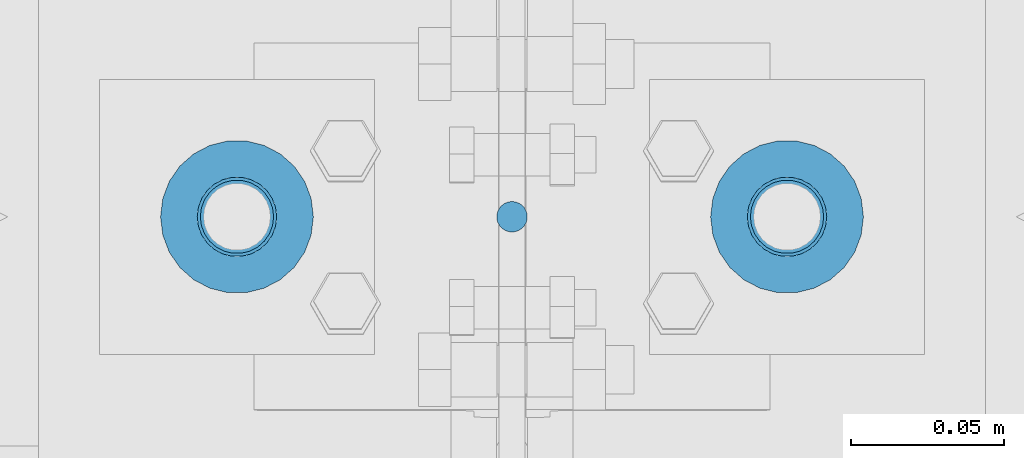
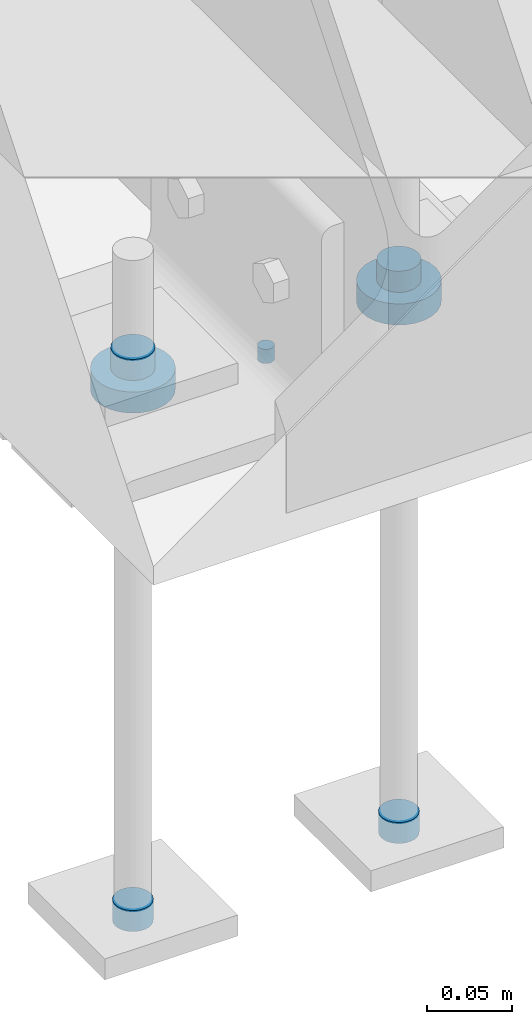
# One storey, part 204 of 362: 7 mechanical fasteners.
"""IFC2X3 building model written with IfcOpenShell, lengths in millimetres."""

from ifc_helpers import new_model, si_unit, frame, origin_with_axes, origin_2d_with_axis, place, context, subcontext, project, spatial, circle, extrude, source, transform, mapped, material, type_object, element, save


model = new_model("IFC2X3")

# Units and contexts
model_context = context("Model", 3, precision=1e-05, world=origin_with_axes())
body_context = subcontext(model_context, "Body", "Model", "MODEL_VIEW")
ifc_project = project(units=[si_unit("LENGTHUNIT", "METRE", prefix="MILLI"), si_unit("AREAUNIT", "SQUARE_METRE"), si_unit("VOLUMEUNIT", "CUBIC_METRE"), si_unit("MASSUNIT", "GRAM", prefix="KILO"), si_unit("TIMEUNIT", "SECOND"), si_unit("PLANEANGLEUNIT", "RADIAN"), si_unit("SOLIDANGLEUNIT", "STERADIAN"), si_unit("THERMODYNAMICTEMPERATUREUNIT", "DEGREE_CELSIUS"), si_unit("LUMINOUSINTENSITYUNIT", "LUMEN")], contexts=[model_context])

# Site, building, storey
site_placement = place(None, origin_with_axes())
site = spatial("IfcSite", under=ifc_project, at=site_placement, Name="Undefined", CompositionType="ELEMENT")
building_placement = place(site_placement, origin_with_axes())
building = spatial("IfcBuilding", under=site, at=building_placement, Name="Undefined", CompositionType="ELEMENT")
storey_placement = place(building_placement, origin_with_axes())
storey = spatial("IfcBuildingStorey", under=building, at=storey_placement, Name="Undefined", CompositionType="ELEMENT", Elevation=0.0)

# Mechanical fasteners
ifc_material = material(Name="6.8")
mechanical_fastener_type = type_object("IfcMechanicalFastenerType", Name="Bolt assembly")
shared_shape_1 = source(origin_with_axes(), body_context, "Body", "SweptSolid", [
    extrude(circle(Radius=25.0, at=origin_2d_with_axis()), frame((0.0, -14.999999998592, 0.0), z_axis=(0.0, 1.0, 0.0), x_axis=(1.0, 0.0, 0.0)), (0.0, 0.0, 1.0), 15.1),
])
for number, where, z_axis, x_axis, name in (
    (1, (-90.0028495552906, 0.0, -200.0), (0.0, 1.0, 0.0), (1.0, 0.0, 0.0), "Bolt assembly"),
    (2, (89.9971504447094, 0.0, -200.0), (0.0, -1.0, 0.0), (-1.0, 0.0, 0.0), "Bolt assembly"),
):
    element("IfcMechanicalFastener", number, at=place(storey_placement, frame(where, z_axis=z_axis, x_axis=x_axis)), inside=storey, type_object=mechanical_fastener_type, material=ifc_material, Name=name, NominalDiameter=30.0, NominalLength=15.0, context=body_context, shape_type="MappedRepresentation", body=[
        mapped(shared_shape_1, transform((0.0, 0.0, 0.0))),
    ])
shared_shape_2 = source(origin_with_axes(), body_context, "Body", "SweptSolid", [
    extrude(circle(Radius=13.0, at=origin_2d_with_axis()), frame((0.0, -14.999999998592, 0.0), z_axis=(0.0, 1.0, 0.0), x_axis=(1.0, 0.0, 0.0)), (0.0, 0.0, 1.0), 15.1),
])
for number, where, z_axis, x_axis, name in (
    (3, (-90.0028495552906, 0.0, -185.0), (0.0, -1.0, 0.0), (-1.0, 0.0, 0.0), "Bolt assembly"),
    (4, (89.9971504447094, 0.0, -185.0), (0.0, -1.0, 0.0), (-1.0, 0.0, 0.0), "Bolt assembly"),
):
    element("IfcMechanicalFastener", number, at=place(storey_placement, frame(where, z_axis=z_axis, x_axis=x_axis)), inside=storey, type_object=mechanical_fastener_type, material=ifc_material, Name=name, NominalDiameter=24.0, NominalLength=15.0, context=body_context, shape_type="MappedRepresentation", body=[
        mapped(shared_shape_2, transform((0.0, 0.0, 0.0))),
    ])
shared_shape_3 = source(origin_with_axes(), body_context, "Body", "SweptSolid", [
    extrude(circle(Radius=12.0, at=origin_2d_with_axis()), frame((0.0, -14.999999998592, 0.0), z_axis=(0.0, 1.0, 0.0), x_axis=(1.0, 0.0, 0.0)), (0.0, 0.0, 1.0), 15.1),
])
for number, where, z_axis, x_axis, name in (
    (5, (-90.0028495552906, 0.0, -580.0), (0.0, -1.0, 0.0), (-1.0, 0.0, 0.0), "Bolt assembly"),
    (6, (89.9971504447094, 0.0, -580.0), (0.0, -1.0, 0.0), (-1.0, 0.0, 0.0), "Bolt assembly"),
):
    element("IfcMechanicalFastener", number, at=place(storey_placement, frame(where, z_axis=z_axis, x_axis=x_axis)), inside=storey, type_object=mechanical_fastener_type, material=ifc_material, Name=name, NominalDiameter=22.0, NominalLength=15.0, context=body_context, shape_type="MappedRepresentation", body=[
        mapped(shared_shape_3, transform((0.0, 0.0, 0.0))),
    ])
shared_shape_4 = source(origin_with_axes(), body_context, "Body", "SweptSolid", [
    extrude(circle(Radius=5.0, at=origin_2d_with_axis()), frame((0.0, 0.0, 0.0), z_axis=(0.0, 1.0, 0.0), x_axis=(1.0, 0.0, 0.0)), (0.0, 0.0, 1.0), 10.1),
])
mechanical_fastener_placement = place(storey_placement, frame((0.0, 0.0, -200.0), z_axis=(1.0, 0.0, 0.0), x_axis=(0.0, -1.0, 0.0)))
element("IfcMechanicalFastener", 7, at=mechanical_fastener_placement, inside=storey, type_object=mechanical_fastener_type, material=ifc_material, Name="Bolt assembly", NominalDiameter=8.0, NominalLength=10.0, context=body_context, shape_type="MappedRepresentation", body=[
    mapped(shared_shape_4, transform((0.0, 0.0, 0.0))),
])

save(model, "model.ifc")
